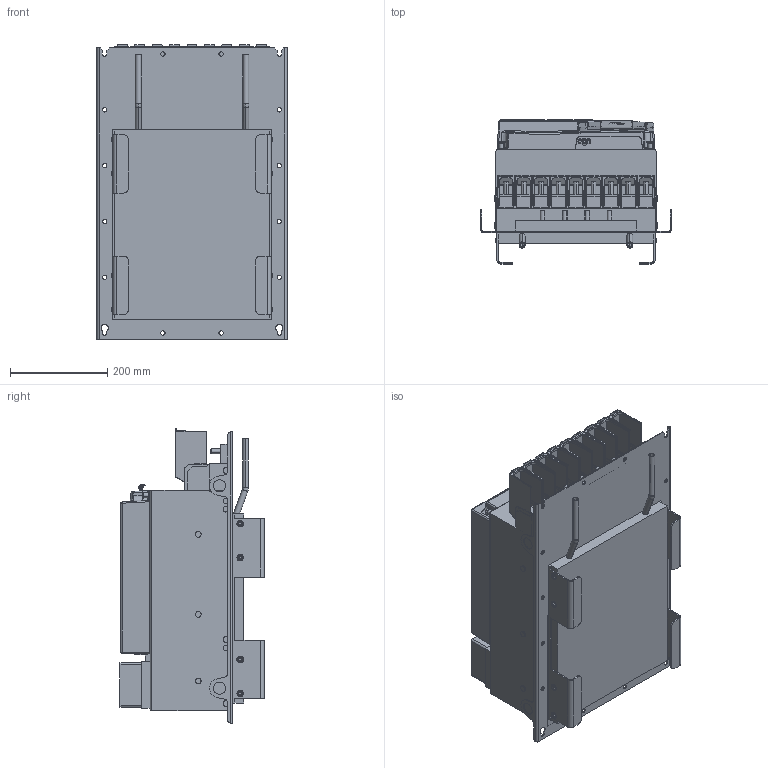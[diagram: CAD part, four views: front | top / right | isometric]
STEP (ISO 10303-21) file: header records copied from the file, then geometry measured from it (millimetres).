
FILE_DESCRIPTION (( 'STEP AP214' ), '1' );
FILE_NAME ('F6-7TW5-A030.STEP', '2021-03-02T12:46:37', ( '' ), ( '' ), 'SwSTEP 2.0', 'SolidWorks 2019', '' );
FILE_SCHEMA (( 'AUTOMOTIVE_DESIGN' ));
Length unit declared in the file: millimetre
Products named in the file (13): 10060970_000_Leistungsteil F6-7 TW5 (Kundenmodell); 10059763_000; 10059765_000; 10061522_000; 10043622_000_70F6 Klemme (Kundenmodell); 10035736_000_Kundenmodell; 10045475_000_Geh„usebaugruppe F6-7 (Kundenmodell); 10061502_000_Deckel (Kundenmodell); 10059764_000_Blindabdeckung (Kundenmodell); 10061503_000; 10061523_000; F6-7TW5-A030; 10061504_000_Gehеsebaugruppe ohne L’terkarte
Assembly tree (12 placements, depth 4):
  F6-7TW5-A030
    10060970_000_Leistungsteil F6-7 TW5 (Kundenmodell)
      10043622_000_70F6 Klemme (Kundenmodell)
        10061522_000
      10061523_000
    10045475_000_Geh„usebaugruppe F6-7 (Kundenmodell)
      10061502_000_Deckel (Kundenmodell)
        10061503_000
      10061504_000_Gehеsebaugruppe ohne L’terkarte
    10035736_000_Kundenmodell
      10059764_000_Blindabdeckung (Kundenmodell)
        10059765_000
      10059763_000
Bounding box: 392 x 296.9 x 606.26 mm (x, y, z)
Volume: 40009119.6 mm3; surface area: 2111542.3 mm2
Topology: 12 solids, 12 shells, 3296 faces, 8408 edges, 5155 vertices
Faces by surface type: plane 1664, cylinder 993, bspline 286, sphere 172, torus 113, cone 68
Entity records: 106242 total; most frequent: CARTESIAN_POINT 28297, ORIENTED_EDGE 16594, DIRECTION 15356, EDGE_CURVE 8297, VECTOR 5282, LINE 5282, VERTEX_POINT 5152, AXIS2_PLACEMENT_3D 5037
